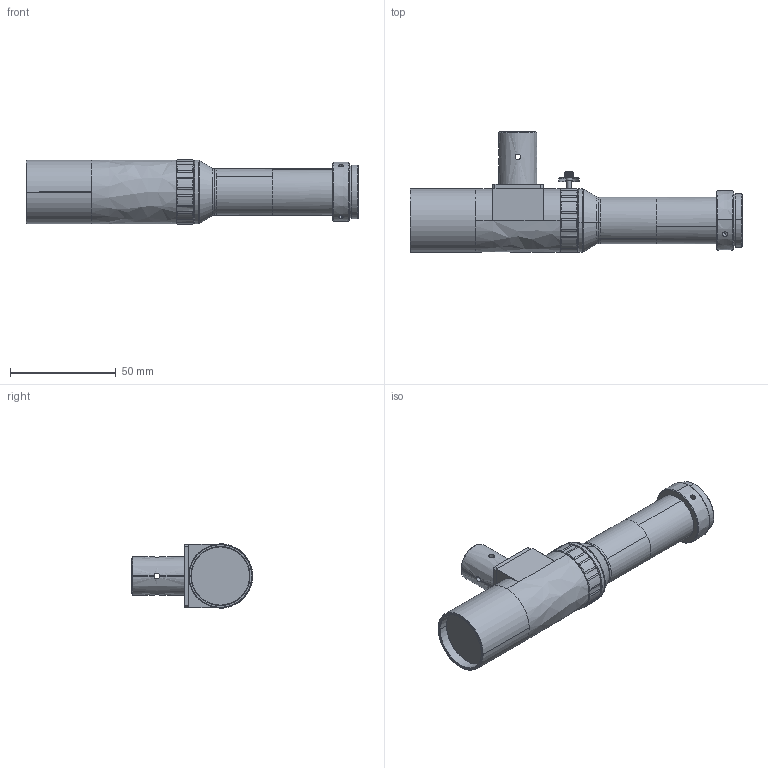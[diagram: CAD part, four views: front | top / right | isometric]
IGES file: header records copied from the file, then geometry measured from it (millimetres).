
Start section: SolidWorks IGES file using analytic representation for surfaces
Global section: file name: C:\Users\16255\Desktop\WWH60-63CTV-IR1075-G.IGS; native system: SolidWorks 2017; preprocessor: SolidWorks 2017; author: 16255; date: 221103.161628; units: millimetre
Bounding box: 156.92 x 57.11 x 30.5 mm (x, y, z)
Surface area: 19349.5 mm2 (no closed solid volume)
Topology: 0 solids, 0 shells, 277 faces, 4026 edges, 4025 vertices
Faces by surface type: revolution 174, bspline 103
